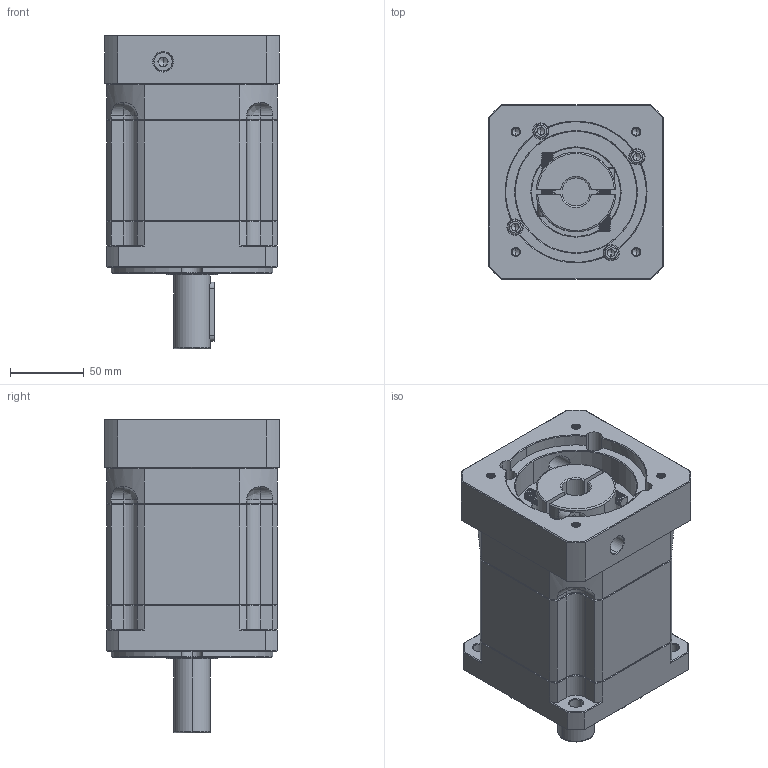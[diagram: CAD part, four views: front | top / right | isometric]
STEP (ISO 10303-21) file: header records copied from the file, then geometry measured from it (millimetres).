
FILE_DESCRIPTION (( 'STEP AP214' ), '1' );
FILE_NAME ('ZB115A-D25-L2-19-95-115-M6.step', '2023-03-02T08:57:00', ( '' ), ( 'Microsoft' ), 'SwSTEP 2.0', 'SolidWorks 2016', '' );
FILE_SCHEMA (( 'AUTOMOTIVE_DESIGN' ));
Length unit declared in the file: millimetre
Products named in the file (1): ZB115A-D25-L2-19-95-115-M6
Bounding box: 118 x 118 x 212 mm (x, y, z)
Volume: 1795827.8 mm3; surface area: 173151.5 mm2
Topology: 6 solids, 6 shells, 2104 faces, 5465 edges, 3452 vertices
Faces by surface type: plane 964, cylinder 412, cone 383, bspline 345
Entity records: 110448 total; most frequent: CARTESIAN_POINT 38575, ORIENTED_EDGE 10862, DIRECTION 8961, EDGE_CURVE 5431, VERTEX_POINT 3452, VECTOR 3361, LINE 3361, AXIS2_PLACEMENT_3D 2800
